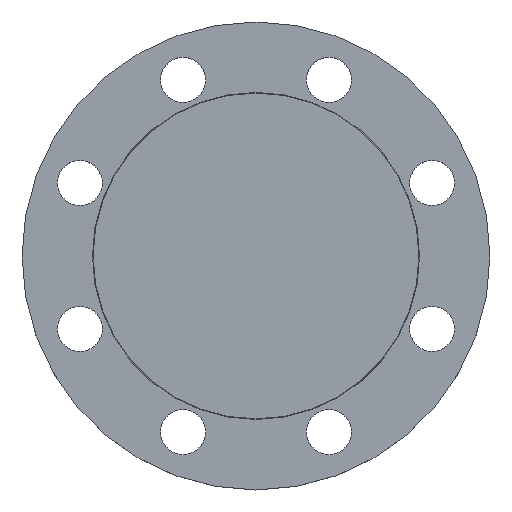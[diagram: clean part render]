
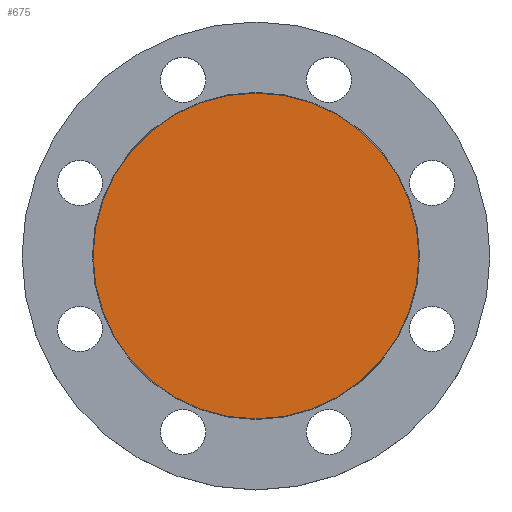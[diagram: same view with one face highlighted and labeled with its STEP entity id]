
A CAD part, top view. The second image highlights one B-rep face of the part: STEP entity #675.
In plain terms, the highlighted planar face has unit normal (0, 0, 1).
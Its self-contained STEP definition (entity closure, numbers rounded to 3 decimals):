
#192 = CARTESIAN_POINT ( 'NONE',  ( -94., 0., 0. ) ) ;
#275 = DIRECTION ( 'NONE',  ( 1., 0., 0. ) ) ;
#276 = DIRECTION ( 'NONE',  ( 0., 0., 1. ) ) ;
#277 = CARTESIAN_POINT ( 'NONE',  ( 0., 0., 0. ) ) ;
#278 = PLANE ( 'NONE',  #312 ) ;
#279 = FACE_OUTER_BOUND ( 'NONE', #770, .T. ) ;
#302 = DIRECTION ( 'NONE',  ( -1., 0., 0. ) ) ;
#303 = DIRECTION ( 'NONE',  ( 0., 0., -1. ) ) ;
#304 = CARTESIAN_POINT ( 'NONE',  ( 0., 0., 0. ) ) ;
#312 = AXIS2_PLACEMENT_3D ( 'NONE', #277, #276, #275 ) ;
#332 = CIRCLE ( 'NONE', #413, 94. ) ;
#335 = CARTESIAN_POINT ( 'NONE',  ( 0., 0., 0. ) ) ;
#413 = AXIS2_PLACEMENT_3D ( 'NONE', #304, #303, #302 ) ;
#493 = AXIS2_PLACEMENT_3D ( 'NONE', #335, #621, #873 ) ;
#496 = CIRCLE ( 'NONE', #493, 94. ) ;
#601 = EDGE_CURVE ( 'NONE', #761, #974, #332, .T. ) ;
#621 = DIRECTION ( 'NONE',  ( 0., 0., -1. ) ) ;
#675 = ADVANCED_FACE ( 'NONE', ( #279 ), #278, .T. ) ;
#743 = CARTESIAN_POINT ( 'NONE',  ( 94., 0., 0. ) ) ;
#761 = VERTEX_POINT ( 'NONE', #192 ) ;
#770 = EDGE_LOOP ( 'NONE', ( #942, #943 ) ) ;
#873 = DIRECTION ( 'NONE',  ( -1., 0., 0. ) ) ;
#942 = ORIENTED_EDGE ( 'NONE', *, *, #601, .F. ) ;
#943 = ORIENTED_EDGE ( 'NONE', *, *, #1023, .F. ) ;
#974 = VERTEX_POINT ( 'NONE', #743 ) ;
#1023 = EDGE_CURVE ( 'NONE', #974, #761, #496, .T. ) ;
